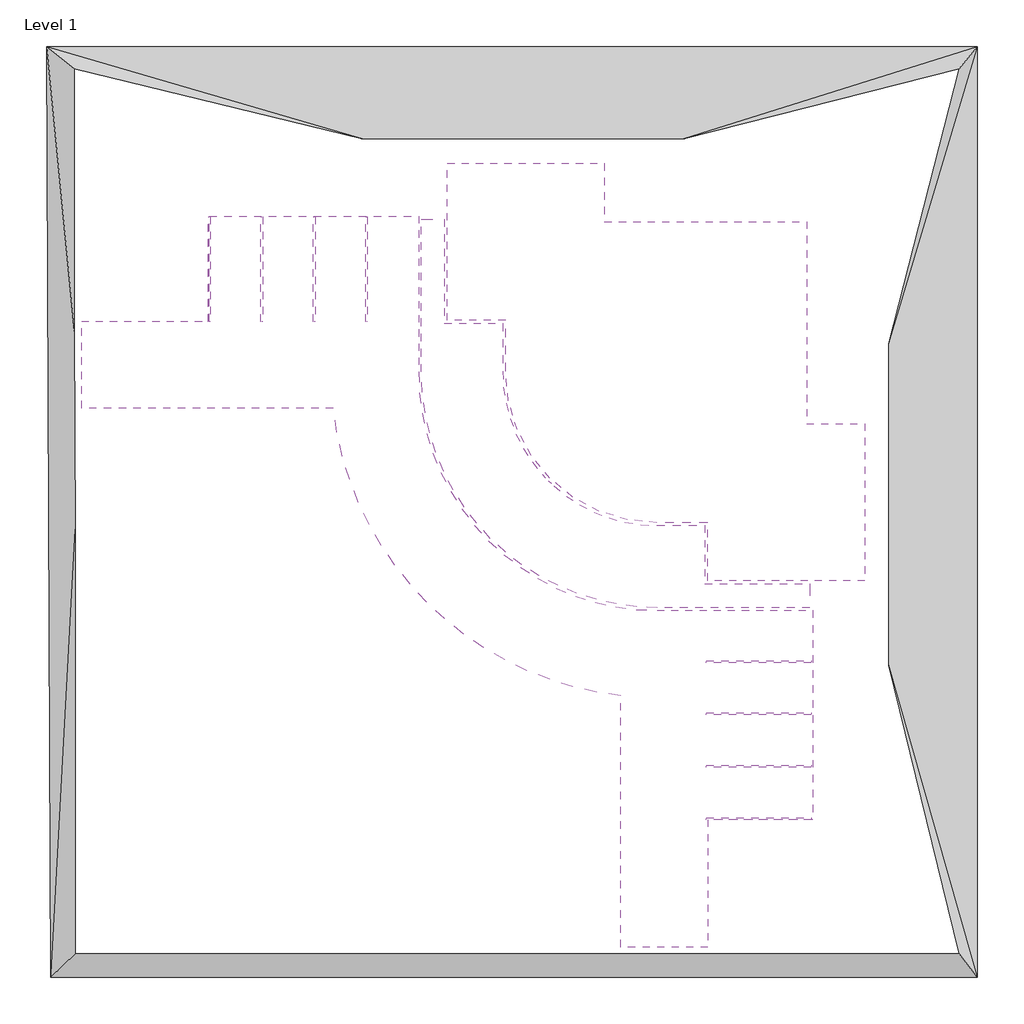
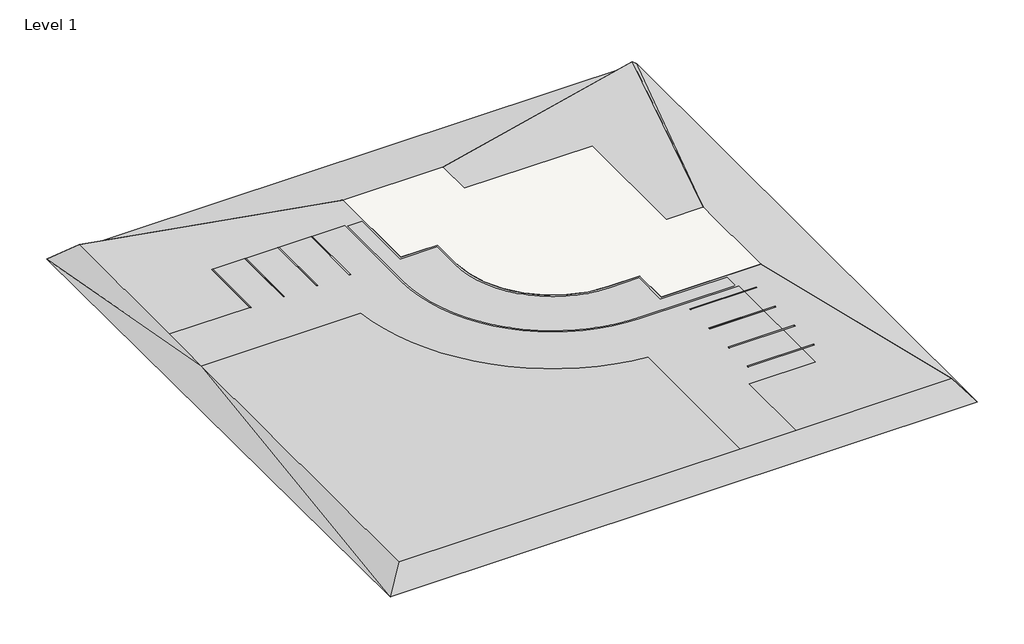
# One storey, incomplete: 11 proxies, 1 slab.
"""IFC4 building model written with IfcOpenShell, lengths in millimetres."""

from ifc_helpers import new_model, si_unit, point, frame, frame_2d, origin, place, context, project, spatial, polyline, circle_curve, trimmed, segment, composite_curve, outline, extrude, triangles, transform, mapped, element, save
from components import parking_space_9_x_18_90_deg_9fe051ab, parking_space_9_x_18_90_deg_b8b21359

model = new_model("IFC4")

# Units and contexts
model_context = context("Model", 3, world=origin())
ifc_project = project(units=[si_unit("LENGTHUNIT", "METRE", prefix="MILLI")], contexts=[model_context])

# Site, building, storey
site = spatial("IfcSite", under=ifc_project)
building = spatial("IfcBuilding", under=site)
storey = spatial("IfcBuildingStorey", under=building, Name="Level 1", Elevation=0.0)

# Proxies
placement = place(None, origin())
element("IfcBuildingElementProxy", 1, Name="Building Element Proxy", at=placement, inside=storey, context=model_context, shape_type="Tessellation", body=[
    triangles([(-29564.9930603, 14487.3726837, 0.0), (-29336.0070374, -34286.8281006, 0.0), (19209.2065613, -34286.8281006, 0.0), (19209.2065613, 14487.3726837, 0.0), (-5516.1522537, 137.6248117, 1524.0), (-8564.1522537, 137.6248117, 1524.0), (-8564.1522537, 8367.2247391, 1524.0), (-334.5524354, 8367.2247391, 1524.0), (-334.5524354, 5319.2247391, 1524.0), (10257.2471649, 5319.2247391, 1524.0), (10257.2471649, 5274.000174, 1524.0), (10257.2471649, -5272.5752609, 1524.0), (13305.2471649, -5272.5752609, 1524.0), (13305.2471649, -13502.1746796, 1524.0), (5075.6477463, -13502.1746796, 1524.0), (5075.6477463, -10454.1746796, 1524.0), (2408.6476009, -10454.1746796, 1524.0), (1521.3514698, -10404.345163, 1524.0), (645.2136692, -10255.4844818, 1524.0), (-208.7479596, -10009.4622894, 1524.0), (-1029.7942646, -9669.3731644, 1524.0), (-1807.6002766, -9239.4953339, 1524.0), (-2532.3843796, -8725.2331192, 1524.0), (-3171.1503319, -8154.3970322, 1524.0), (-3195.0323044, -8133.0547302, 1524.0), (-3787.2106934, -7470.4073868, 1524.0), (-4301.4723267, -6745.6231384, 1524.0), (-4731.3504478, -5967.8171265, 1524.0), (-5071.4392822, -5146.7707306, 1524.0), (-5317.4608932, -4292.8091927, 1524.0), (-5466.3227371, -3416.6713921, 1524.0), (-5516.1522537, -2529.3752609, 1524.0), (-27726.1959961, 107.3576367, 1524.0), (-21045.9944458, 107.3576367, 1524.0), (-21045.9944458, 5593.7574005, 1524.0), (-10073.1956085, 5593.7574005, 1524.0), (-10073.1956085, -2559.6423088, 1524.0), (-10025.6415344, -3648.8101295, 1524.0), (-9883.340918, -4729.6889214, 1524.0), (-9647.3768326, -5794.0521515, 1524.0), (-9319.5462616, -6833.799733, 1524.0), (-8902.3426575, -7841.018486, 1524.0), (-8398.9414078, -8808.0425995, 1524.0), (-7813.1742554, -9727.5126389, 1524.0), (-7149.499649, -10592.4301941, 1524.0), (-6412.9672806, -11396.2148529, 1524.0), (-5609.1832031, -12132.74664, 1524.0), (-4744.2653572, -12796.4212463, 1524.0), (-3824.7953178, -13382.1889801, 1524.0), (-2857.7712044, -13885.5896484, 1524.0), (-1850.5525967, -14302.7932526, 1524.0), (-810.8050879, -14630.6244049, 1524.0), (253.558215, -14866.5879089, 1524.0), (1334.4368614, -15008.8885254, 1524.0), (2423.6046822, -15056.4425995, 1524.0), (10577.0043915, -15056.4425995, 1524.0), (10577.0043915, -26029.2414368, 1524.0), (5090.6049728, -26029.2414368, 1524.0), (5090.6049728, -32709.4429871, 1524.0), (518.6047548, -32709.4429871, 1524.0), (518.6047548, -19521.8037598, 1524.0), (-744.322518, -19331.8862823, 1524.0), (-1989.5144634, -19048.0722107, 1524.0), (-3210.0002861, -18671.9486572, 1524.0), (-4398.9469002, -18205.6236328, 1524.0), (-5549.6978806, -17651.7051178, 1524.0), (-6655.8117599, -17013.2964111, 1524.0), (-7711.0956024, -16293.9705505, 1524.0), (-8709.641629, -15497.7551971, 1524.0), (-9645.8594833, -14629.1070557, 1524.0), (-10514.5082062, -13692.88862, 1524.0), (-11310.7235596, -12694.3425934, 1524.0), (-12030.0494202, -11639.0593323, 1524.0), (-12668.4581268, -10532.9454529, 1524.0), (-13222.3766418, -9382.1936005, 1524.0), (-13688.7016663, -8193.2469864, 1524.0), (-14064.8252197, -6972.7615997, 1524.0), (-14348.6392914, -5727.5695816, 1524.0), (-14538.5567688, -4464.6423088, 1524.0), (-27726.1959961, -4464.6423088, 1524.0), (-5668.5522537, -14.7751871, 1524.0), (-5668.5522537, -2529.3752609, 1524.0), (-5624.3049545, -3373.6725632, 1524.0), (-5492.046167, -4208.719558, 1524.0), (-5273.226384, -5025.3670944, 1524.0), (-4970.2419708, -5814.668335, 1524.0), (-4586.4127831, -6567.9752609, 1524.0), (-4125.9443779, -7277.0343063, 1524.0), (-3593.8817963, -7934.0767593, 1524.0), (-3272.3557823, -8255.603064, 1524.0), (-2996.0540428, -8531.9048035, 1524.0), (-2339.0114445, -9063.9670944, 1524.0), (-1629.9523991, -9524.4354996, 1524.0), (-876.6456911, -9908.264978, 1524.0), (-87.3445142, -10211.2488098, 1524.0), (729.3032312, -10430.0691742, 1524.0), (1564.3502987, -10562.3273804, 1524.0), (2408.6476009, -10606.5746796, 1524.0), (4923.2477463, -10606.5746796, 1524.0), (4923.2477463, -13654.5746796, 1524.0), (10424.6043915, -13654.5746796, 1524.0), (10424.6043915, -14904.0425995, 1524.0), (2423.6046822, -14904.0425995, 1524.0), (1347.7193356, -14857.0687225, 1524.0), (280.0221883, -14716.5028839, 1524.0), (-771.3610565, -14483.4171112, 1524.0), (-1798.4287434, -14159.5833893, 1524.0), (-2793.3640892, -13747.4678467, 1524.0), (-3748.5953178, -13250.2063385, 1524.0), (-4656.8520882, -12671.5823547, 1524.0), (-5511.2229034, -12016.0014404, 1524.0), (-6305.2040909, -11288.4516632, 1524.0), (-7032.7544495, -10494.4698944, 1524.0), (-7688.3359451, -9640.0993698, 1524.0), (-8266.9593475, -8731.8425995, 1524.0), (-8764.2208557, -7776.6113708, 1524.0), (-9176.3369797, -6781.675589, 1524.0), (-9500.1701202, -5754.6080475, 1524.0), (-9733.2558929, -4703.224839, 1524.0), (-9873.8205688, -3635.5278008, 1524.0), (-9920.7956085, -2559.6423088, 1524.0), (-9920.7956085, 5441.3574005, 1524.0), (-8716.5522537, 5441.3574005, 1524.0), (-8716.5522537, -14.7751871, 1524.0), (-27726.1959961, 13010.5581757, 1524.0), (-27726.1959961, -32709.4429871, 1524.0), (17993.8051666, -32709.4429871, 1524.0), (17993.8051666, 13010.5581757, 1524.0)], [[126, 80, 2], [69, 126, 68], [126, 73, 80], [126, 72, 73], [73, 74, 80], [69, 70, 126], [71, 72, 126], [70, 71, 126], [60, 67, 126], [80, 74, 75], [80, 75, 76], [116, 42, 115], [117, 41, 116], [42, 43, 115], [116, 41, 42], [117, 40, 41], [77, 80, 76], [67, 68, 126], [112, 46, 47], [110, 47, 48], [110, 48, 109], [111, 47, 110], [66, 67, 60], [112, 47, 111], [44, 45, 114], [115, 43, 114], [45, 113, 114], [43, 44, 114], [113, 45, 46], [86, 28, 29], [28, 86, 87], [46, 112, 113], [126, 2, 60], [78, 79, 80], [78, 80, 77], [39, 119, 120], [40, 119, 39], [121, 38, 120], [120, 38, 39], [121, 37, 38], [33, 35, 125], [35, 33, 34], [7, 1, 125], [125, 1, 33], [125, 35, 7], [33, 1, 80], [36, 122, 123], [36, 37, 122], [37, 121, 122], [36, 7, 35], [80, 1, 2], [40, 117, 118], [83, 84, 31], [85, 29, 30], [31, 84, 30], [30, 84, 85], [29, 85, 86], [83, 31, 32], [7, 36, 123], [6, 7, 123], [124, 6, 123], [82, 32, 81], [32, 82, 83], [81, 5, 6], [5, 81, 32], [81, 6, 124], [40, 118, 119], [1, 7, 4], [62, 63, 60], [64, 65, 60], [63, 64, 60], [104, 105, 53], [61, 62, 60], [65, 66, 60], [52, 53, 105], [50, 108, 49], [108, 50, 107], [109, 49, 108], [52, 106, 51], [106, 52, 105], [51, 107, 50], [107, 51, 106], [48, 49, 109], [58, 59, 57], [103, 54, 55], [14, 57, 127], [127, 57, 59], [14, 56, 57], [127, 3, 14], [127, 59, 3], [59, 60, 3], [55, 56, 102], [103, 104, 54], [99, 100, 15], [102, 103, 55], [102, 56, 101], [101, 15, 100], [15, 16, 99], [14, 15, 101], [56, 14, 101], [3, 4, 14], [54, 104, 53], [60, 2, 3], [23, 92, 22], [92, 23, 91], [24, 90, 91], [24, 91, 23], [94, 21, 93], [22, 93, 21], [93, 22, 92], [88, 26, 27], [26, 88, 89], [27, 87, 88], [25, 89, 90], [25, 26, 89], [25, 90, 24], [21, 94, 20], [96, 18, 19], [18, 96, 97], [20, 95, 19], [19, 95, 96], [97, 98, 17], [17, 98, 99], [99, 16, 17], [97, 17, 18], [9, 10, 8], [12, 13, 11], [11, 128, 10], [128, 11, 13], [4, 8, 128], [4, 128, 13], [13, 14, 4], [128, 8, 10], [8, 4, 7], [95, 20, 94], [28, 87, 27]], closed=False),
])
element("IfcBuildingElementProxy", 2, Name="Building Element Proxy", at=placement, inside=storey, context=model_context, shape_type="Tessellation", body=[
    triangles([(-27726.1959961, 107.3576367, 1524.0), (-27726.1959961, -4464.6423088, 1524.0), (-14538.5567688, -4464.6423088, 1524.0), (-14348.6392914, -5727.5695816, 1524.0), (-14064.8252197, -6972.7615997, 1524.0), (-13688.7016663, -8193.2469864, 1524.0), (-13222.3766418, -9382.1936005, 1524.0), (-12668.4581268, -10532.9454529, 1524.0), (-12030.0494202, -11639.0593323, 1524.0), (-11310.7235596, -12694.3425934, 1524.0), (-10514.5082062, -13692.88862, 1524.0), (-9645.8594833, -14629.1070557, 1524.0), (-8709.641629, -15497.7551971, 1524.0), (-7711.0956024, -16293.9705505, 1524.0), (-6655.8117599, -17013.2964111, 1524.0), (-5549.6978806, -17651.7051178, 1524.0), (-4398.9469002, -18205.6236328, 1524.0), (-3210.0002861, -18671.9486572, 1524.0), (-1989.5144634, -19048.0722107, 1524.0), (-744.322518, -19331.8862823, 1524.0), (518.6047548, -19521.8037598, 1524.0), (518.6047548, -32709.4429871, 1524.0), (5090.6049728, -32709.4429871, 1524.0), (5090.6049728, -26029.2414368, 1524.0), (10577.0043915, -26029.2414368, 1524.0), (10577.0043915, -15056.4425995, 1524.0), (2423.6046822, -15056.4425995, 1524.0), (1334.4368614, -15008.8885254, 1524.0), (253.558215, -14866.5879089, 1524.0), (-810.8050879, -14630.6244049, 1524.0), (-1850.5525967, -14302.7932526, 1524.0), (-2857.7712044, -13885.5896484, 1524.0), (-3824.7953178, -13382.1889801, 1524.0), (-4744.2653572, -12796.4212463, 1524.0), (-5609.1832031, -12132.74664, 1524.0), (-6412.9672806, -11396.2148529, 1524.0), (-7149.499649, -10592.4301941, 1524.0), (-7813.1742554, -9727.5126389, 1524.0), (-8398.9414078, -8808.0425995, 1524.0), (-8902.3426575, -7841.018486, 1524.0), (-9319.5462616, -6833.799733, 1524.0), (-9647.3768326, -5794.0521515, 1524.0), (-9883.340918, -4729.6889214, 1524.0), (-10025.6415344, -3648.8101295, 1524.0), (-10073.1956085, -2559.6423088, 1524.0), (-10073.1956085, 5593.7574005, 1524.0), (-21045.9944458, 5593.7574005, 1524.0), (-21045.9944458, 107.3576367, 1524.0)], [[40, 7, 8], [9, 39, 8], [7, 41, 6], [42, 5, 6], [10, 38, 9], [11, 37, 10], [12, 36, 11], [40, 8, 39], [39, 9, 38], [12, 13, 36], [38, 10, 37], [40, 41, 7], [3, 4, 43], [2, 3, 48], [48, 1, 2], [46, 47, 48], [48, 3, 46], [42, 43, 4], [42, 4, 5], [44, 45, 3], [45, 46, 3], [43, 44, 3], [41, 42, 6], [18, 31, 17], [32, 16, 17], [16, 33, 15], [34, 14, 15], [30, 18, 19], [24, 22, 23], [21, 22, 24], [26, 21, 24], [19, 20, 30], [24, 25, 26], [20, 21, 29], [33, 34, 15], [32, 33, 16], [37, 11, 36], [36, 13, 35], [34, 35, 14], [27, 28, 21], [26, 27, 21], [30, 31, 18], [29, 30, 20], [28, 29, 21], [32, 17, 31], [13, 14, 35]], closed=False),
])
element("IfcBuildingElementProxy", 3, Name="Building Element Proxy", at=placement, inside=storey, context=model_context, shape_type="Tessellation", body=[
    triangles([(-5668.5522537, -14.7751871, 1524.0), (-8716.5522537, -14.7751871, 1524.0), (-8716.5522537, 5441.3574005, 1524.0), (-9920.7956085, 5441.3574005, 1524.0), (-9920.7956085, -2559.6423088, 1524.0), (-9873.8205688, -3635.5278008, 1524.0), (-9733.2558929, -4703.224839, 1524.0), (-9500.1701202, -5754.6080475, 1524.0), (-9176.3369797, -6781.675589, 1524.0), (-8764.2208557, -7776.6113708, 1524.0), (-8266.9593475, -8731.8425995, 1524.0), (-7688.3359451, -9640.0993698, 1524.0), (-7032.7544495, -10494.4698944, 1524.0), (-6305.2040909, -11288.4516632, 1524.0), (-5511.2229034, -12016.0014404, 1524.0), (-4656.8520882, -12671.5823547, 1524.0), (-3748.5953178, -13250.2063385, 1524.0), (-2793.3640892, -13747.4678467, 1524.0), (-1798.4287434, -14159.5833893, 1524.0), (-771.3610565, -14483.4171112, 1524.0), (280.0221883, -14716.5028839, 1524.0), (1347.7193356, -14857.0687225, 1524.0), (2423.6046822, -14904.0425995, 1524.0), (10424.6043915, -14904.0425995, 1524.0), (10424.6043915, -13654.5746796, 1524.0), (4923.2477463, -13654.5746796, 1524.0), (4923.2477463, -10606.5746796, 1524.0), (2408.6476009, -10606.5746796, 1524.0), (1564.3502987, -10562.3273804, 1524.0), (729.3032312, -10430.0691742, 1524.0), (-87.3445142, -10211.2488098, 1524.0), (-876.6456911, -9908.264978, 1524.0), (-1629.9523991, -9524.4354996, 1524.0), (-2339.0114445, -9063.9670944, 1524.0), (-2996.0540428, -8531.9048035, 1524.0), (-3272.3557823, -8255.603064, 1524.0), (-3593.8817963, -7934.0767593, 1524.0), (-4125.9443779, -7277.0343063, 1524.0), (-4586.4127831, -6567.9752609, 1524.0), (-4970.2419708, -5814.668335, 1524.0), (-5273.226384, -5025.3670944, 1524.0), (-5492.046167, -4208.719558, 1524.0), (-5624.3049545, -3373.6725632, 1524.0), (-5668.5522537, -2529.3752609, 1524.0)], [[39, 10, 11], [40, 9, 10], [41, 8, 9], [39, 11, 12], [14, 37, 13], [15, 35, 14], [39, 40, 10], [13, 38, 12], [38, 39, 12], [15, 16, 34], [41, 9, 40], [5, 6, 44], [3, 4, 2], [5, 2, 4], [43, 6, 7], [44, 6, 43], [43, 7, 42], [2, 44, 1], [2, 5, 44], [7, 8, 42], [8, 41, 42], [20, 31, 19], [18, 33, 17], [18, 19, 32], [30, 20, 21], [23, 28, 22], [26, 23, 24], [23, 26, 28], [25, 26, 24], [21, 22, 29], [28, 26, 27], [35, 15, 34], [38, 13, 37], [14, 36, 37], [14, 35, 36], [29, 30, 21], [28, 29, 22], [32, 33, 18], [31, 32, 19], [30, 31, 20], [16, 33, 34], [16, 17, 33]], closed=False),
])
parking_space_9_x_18_90_deg_shape = parking_space_9_x_18_90_deg_9fe051ab(model_context)
element("IfcBuildingElementProxy", 4, Name="Parking Space : 9' x 18' - 90 deg", ObjectType="Parking Space : 9' x 18' - 90 deg", at=placement, inside=storey, context=model_context, shape_type="MappedRepresentation", body=[
    mapped(parking_space_9_x_18_90_deg_shape, transform((10497.3973938, -17737.8540516, 3049.5607373), x_axis=(0.0, 1.0, 0.0), y_axis=(-1.0, 0.0, 0.0), z_axis=(0.0, 0.0, 1.0))),
])
element("IfcBuildingElementProxy", 5, Name="Parking Space : 9' x 18' - 90 deg", ObjectType="Parking Space : 9' x 18' - 90 deg", at=placement, inside=storey, context=model_context, shape_type="MappedRepresentation", body=[
    mapped(parking_space_9_x_18_90_deg_shape, transform((10497.3973938, -20481.0540516, 3049.5607373), x_axis=(0.0, 1.0, 0.0), y_axis=(-1.0, 0.0, 0.0), z_axis=(0.0, 0.0, 1.0))),
])
element("IfcBuildingElementProxy", 6, Name="Parking Space : 9' x 18' - 90 deg", ObjectType="Parking Space : 9' x 18' - 90 deg", at=placement, inside=storey, context=model_context, shape_type="MappedRepresentation", body=[
    mapped(parking_space_9_x_18_90_deg_shape, transform((10497.3973938, -23224.2540516, 3049.5607373), x_axis=(0.0, 1.0, 0.0), y_axis=(-1.0, 0.0, 0.0), z_axis=(0.0, 0.0, 1.0))),
])
element("IfcBuildingElementProxy", 7, Name="Parking Space : 9' x 18' - 90 deg", ObjectType="Parking Space : 9' x 18' - 90 deg", at=placement, inside=storey, context=model_context, shape_type="MappedRepresentation", body=[
    mapped(parking_space_9_x_18_90_deg_shape, transform((10497.3973938, -25967.4540516, 3049.5607373), x_axis=(0.0, 1.0, 0.0), y_axis=(-1.0, 0.0, 0.0), z_axis=(0.0, 0.0, 1.0))),
])
parking_space_9_x_18_90_deg_2_shape = parking_space_9_x_18_90_deg_b8b21359(model_context)
element("IfcBuildingElementProxy", 8, Name="Parking Space : 9' x 18' - 90 deg", ObjectType="Parking Space : 9' x 18' - 90 deg", at=placement, inside=storey, context=model_context, shape_type="MappedRepresentation", body=[
    mapped(parking_space_9_x_18_90_deg_2_shape, transform((-12799.8313079, 5559.3746501, 1524.7803686), x_axis=(1.0, 0.0, 0.0), y_axis=(0.0, 1.0, 0.0), z_axis=(0.0, 0.0, 1.0))),
])
element("IfcBuildingElementProxy", 9, Name="Parking Space : 9' x 18' - 90 deg", ObjectType="Parking Space : 9' x 18' - 90 deg", at=placement, inside=storey, context=model_context, shape_type="MappedRepresentation", body=[
    mapped(parking_space_9_x_18_90_deg_2_shape, transform((-15543.0313079, 5559.3746501, 1524.7803686), x_axis=(1.0, 0.0, 0.0), y_axis=(0.0, 1.0, 0.0), z_axis=(0.0, 0.0, 1.0))),
])
element("IfcBuildingElementProxy", 10, Name="Parking Space : 9' x 18' - 90 deg", ObjectType="Parking Space : 9' x 18' - 90 deg", at=placement, inside=storey, context=model_context, shape_type="MappedRepresentation", body=[
    mapped(parking_space_9_x_18_90_deg_2_shape, transform((-18286.2313079, 5559.3746501, 1524.7803686), x_axis=(1.0, 0.0, 0.0), y_axis=(0.0, 1.0, 0.0), z_axis=(0.0, 0.0, 1.0))),
])
element("IfcBuildingElementProxy", 11, Name="Parking Space : 9' x 18' - 90 deg", ObjectType="Parking Space : 9' x 18' - 90 deg", at=placement, inside=storey, context=model_context, shape_type="MappedRepresentation", body=[
    mapped(parking_space_9_x_18_90_deg_2_shape, transform((-21029.4313079, 5559.3746501, 1524.7803686), x_axis=(1.0, 0.0, 0.0), y_axis=(0.0, 1.0, 0.0), z_axis=(0.0, 0.0, 1.0))),
])

# Slab
element("IfcSlab", 12, ObjectType="Pad 1", at=placement, inside=storey, context=model_context, shape_type="SweptSolid", body=[
    extrude(outline(composite_curve([segment(polyline([(-5516.1524434, 137.6248129), (-8564.1524434, 137.6248129), (-8564.1524434, 8367.2248129), (-334.5524434, 8367.2248129), (-334.5524434, 5319.2248129), (10257.2475566, 5319.2248129), (10257.2475566, -5272.5751871), (13305.2475566, -5272.5751871), (13305.2475566, -13502.1751871), (5075.6475566, -13502.1751871), (5075.6475566, -10454.1751871), (2408.6475566, -10454.1751871)]), True, "CONTINUOUS"), segment(trimmed(circle_curve(frame_2d((2408.6475566, -2529.3751871)), 7924.8), [point((2408.6475566, -10454.1751871))], [point((-5516.1524434, -2529.3751871))], False, "CARTESIAN"), True, "CONTINUOUS"), segment(polyline([(-5516.1524434, -2529.3751871), (-5516.1524434, 137.6248129)]), True, "CONTINUOUS")], self_intersect=False)), frame((0.0, 0.0, 1219.2), z_axis=(0.0, 0.0, 1.0), x_axis=(1.0, 0.0, 0.0)), (0.0, 0.0, 1.0), 304.8),
])

save(model, "model.ifc")
